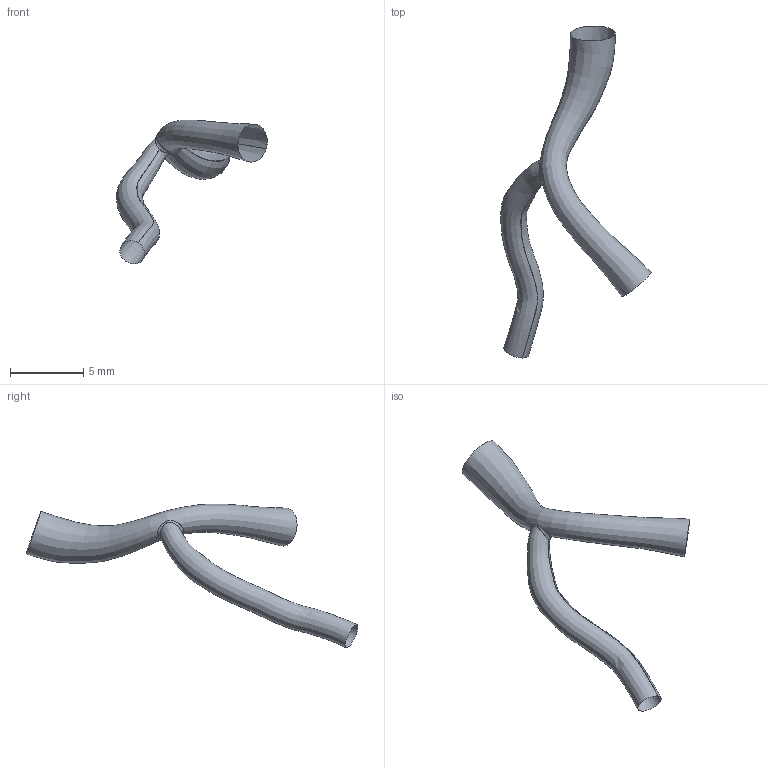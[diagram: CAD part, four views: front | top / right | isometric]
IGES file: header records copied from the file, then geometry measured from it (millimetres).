
Global section: file name: C:\Documents and Settings\Administrator\Desktop\FDA Bifurcation win\RawData_for_IGES\HRCA_Data\20010719.140840\IGES\20010719.140840.RM2.BIFUR.ES.igs; native system: Rhinoceros ( May 19 2006 ); preprocessor: Trout Lake IGES 012 May 19 2006; date: 100728.210759; units: centimetre
Bounding box: 10.25 x 22.61 x 9.81 mm (x, y, z)
Surface area: 224.5 mm2 (no closed solid volume)
Topology: 0 solids, 0 shells, 3 faces, 39 edges, 34 vertices
Faces by surface type: bspline 3
